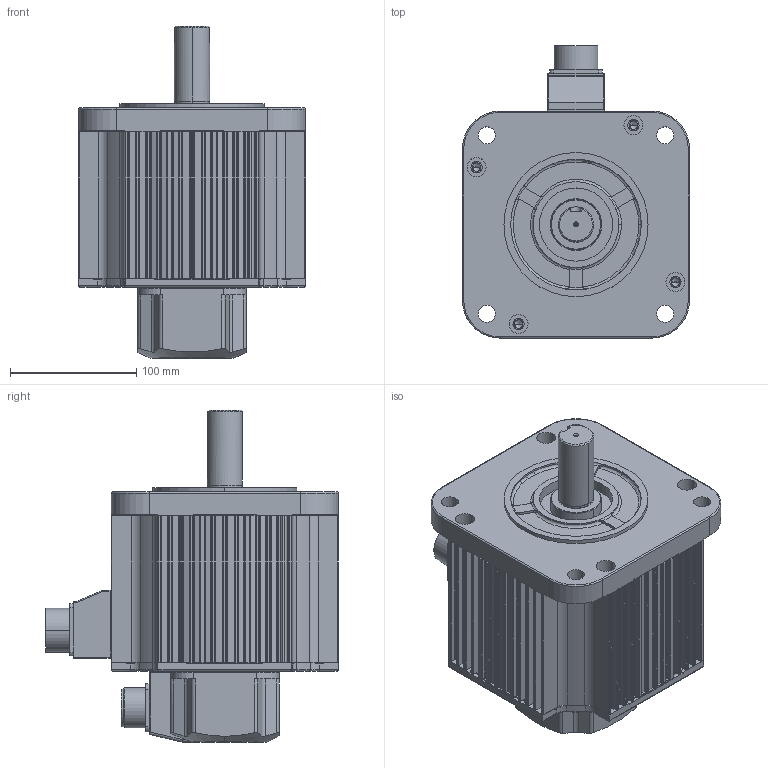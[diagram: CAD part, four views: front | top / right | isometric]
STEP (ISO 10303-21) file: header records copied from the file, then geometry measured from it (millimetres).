
FILE_DESCRIPTION (( 'STEP AP214' ), '1' );
FILE_NAME ('KAND-35B¡à1N2.STEP', '2026-09-12T02:56:41', ( '' ), ( '' ), 'SwSTEP 2.0', 'SolidWorks 2023', '' );
FILE_SCHEMA (( 'AUTOMOTIVE_DESIGN' ));
Length unit declared in the file: millimetre
Products named in the file (11): 10050907 RUBBER SEAL_MS22 or MS24; MS3102A 22_표준; 10050908 CONNECTOR BOX_MS22 or MS24; MS3102A 20-29P; □180-116.5mm; □180 FLANGE; □180 BRACKET_BR; KAND-35B□1N2; 1005052200 ENCODER COVER; Ø28-KEY8X51; 10050523 GASKET_돌출형
Assembly tree (10 placements, depth 2):
  KAND-35B□1N2
    □180-116.5mm
    □180 FLANGE
    □180 BRACKET_BR
    1005052200 ENCODER COVER
    10050523 GASKET_돌출형
    MS3102A 20-29P
    Ø28-KEY8X51
    10050907 RUBBER SEAL_MS22 or MS24
    10050908 CONNECTOR BOX_MS22 or MS24
    MS3102A 22_표준
Bounding box: 180 x 232.05 x 263.2 mm (x, y, z)
Volume: 1373964.7 mm3; surface area: 485252.6 mm2
Topology: 10 solids, 10 shells, 1746 faces, 4794 edges, 3122 vertices
Faces by surface type: cylinder 912, plane 605, torus 122, cone 70, bspline 35, sphere 2
Entity records: 59069 total; most frequent: CARTESIAN_POINT 13286, DIRECTION 9926, ORIENTED_EDGE 9516, EDGE_CURVE 4758, AXIS2_PLACEMENT_3D 3818, VERTEX_POINT 3122, VECTOR 2290, LINE 2290
